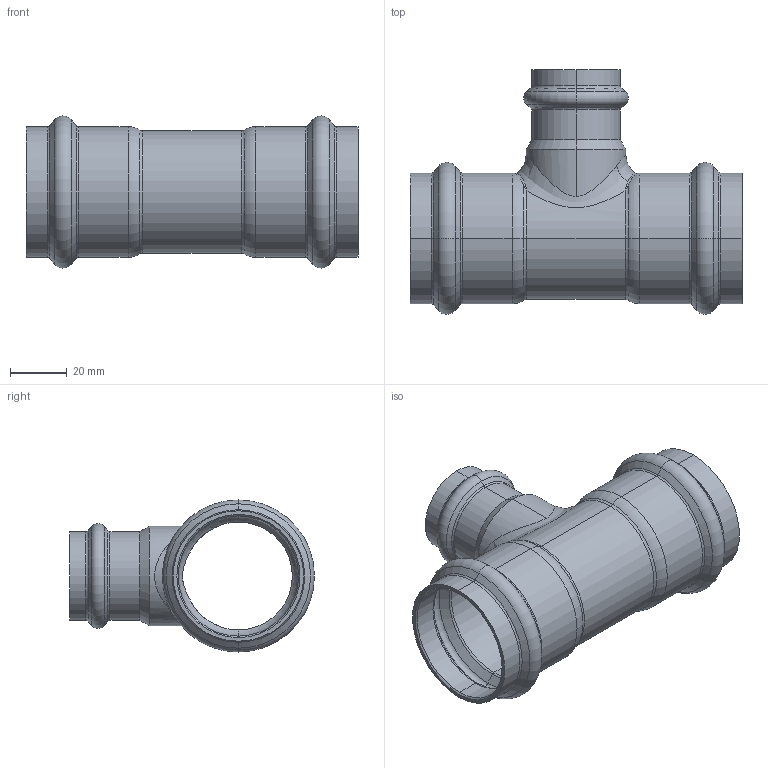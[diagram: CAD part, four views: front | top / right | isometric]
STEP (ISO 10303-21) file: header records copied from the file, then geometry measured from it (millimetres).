
FILE_DESCRIPTION (( 'STEP AP203' ), '1' );
FILE_NAME ('SP5130 Ø42-28-42.STEP', '2017-04-25T15:08:37', ( '' ), ( '' ), 'SwSTEP 2.0', 'SolidWorks 2016', '' );
FILE_SCHEMA (( 'CONFIG_CONTROL_DESIGN' ));
Length unit declared in the file: millimetre
Products named in the file (1): SP5130 Ø42-28-42
Bounding box: 117 x 86.3 x 53.6 mm (x, y, z)
Volume: 38590.4 mm3; surface area: 41792.1 mm2
Topology: 1 solids, 1 shells, 133 faces, 284 edges, 148 vertices
Faces by surface type: torus 50, cone 36, cylinder 34, bspline 10, plane 3
Entity records: 5115 total; most frequent: CARTESIAN_POINT 2184, DIRECTION 680, ORIENTED_EDGE 560, AXIS2_PLACEMENT_3D 306, EDGE_CURVE 280, CIRCLE 182, VERTEX_POINT 148, EDGE_LOOP 136
